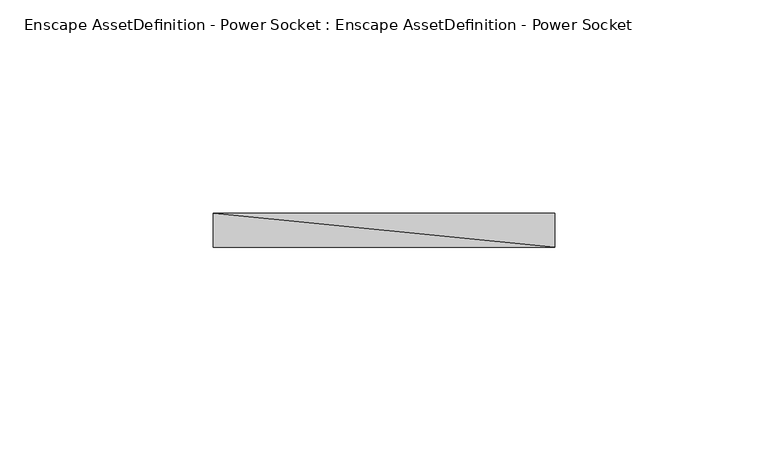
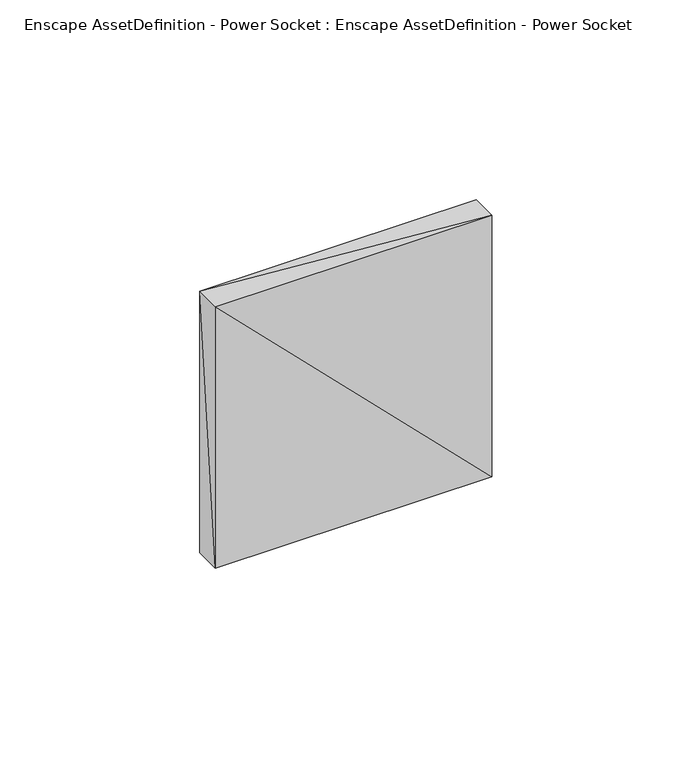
"""IFC4 building model written with IfcOpenShell, lengths in millimetres: geographic element geometry, Enscape AssetDefinition - Power Socket : Enscape AssetDefinition - Power Socket."""

from ifc_helpers import new_model, si_unit, origin, place, context, project, spatial, faceted_brep, source, transform, mapped, element, save


def enscape_assetdefinition_power_socket_enscape_assetdefinition_6a6208d7(model_context):
    return source(origin(), model_context, "Body", "Brep", [
        faceted_brep([(-39.9999991, 0.0, 39.9999991), (-39.9999991, -8.0000004, 39.9999991), (39.9999991, -8.0000004, 39.9999991), (39.9999991, 0.0, 39.9999991), (-39.9999991, -8.0000004, -39.9999991), (-39.9999991, 0.0, -39.9999991), (39.9999991, -8.0000004, -39.9999991), (39.9999991, 0.0, -39.9999991)], [[[0, 1, 2]], [[0, 2, 3]], [[4, 1, 0]], [[4, 0, 5]], [[6, 2, 1]], [[6, 1, 4]], [[7, 3, 2]], [[7, 2, 6]], [[5, 0, 3]], [[5, 3, 7]], [[5, 6, 4]], [[5, 7, 6]]]),
    ])


if __name__ == "__main__":
    model = new_model("IFC4")
    model_context = context("Model", 3, world=origin())
    ifc_project = project(units=[si_unit("LENGTHUNIT", "METRE", prefix="MILLI")], contexts=[model_context])
    site = spatial("IfcSite", under=ifc_project)
    building = spatial("IfcBuilding", under=site)
    placement = place(None, origin())
    enscape_assetdefinition_power_socket_enscape_assetdefinition_shape = enscape_assetdefinition_power_socket_enscape_assetdefinition_6a6208d7(model_context)
    element("IfcGeographicElement", 1, ObjectType="Enscape AssetDefinition - Power Socket : Enscape AssetDefinition - Power Socket", at=placement, inside=building, context=model_context, shape_type="MappedRepresentation", body=[
        mapped(enscape_assetdefinition_power_socket_enscape_assetdefinition_shape, transform((0.0, 0.0, 0.0), x_axis=(1.0, 0.0, 0.0), y_axis=(0.0, 1.0, 0.0), z_axis=(0.0, 0.0, 1.0))),
    ])
    save(model, "model.ifc")
